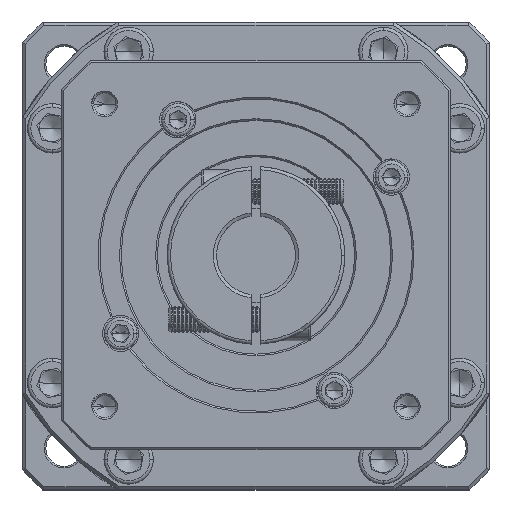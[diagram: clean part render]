
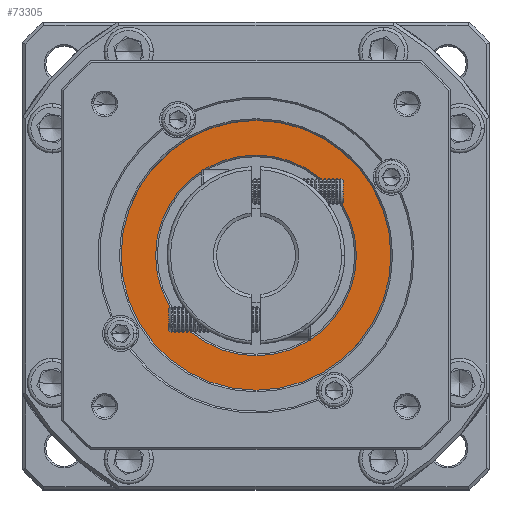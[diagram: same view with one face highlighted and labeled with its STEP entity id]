
A CAD part, top view. The second image highlights one B-rep face of the part: STEP entity #73305.
In plain terms, the highlighted planar face has unit normal (0, 0, 1).
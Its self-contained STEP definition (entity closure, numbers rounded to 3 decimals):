
#5859 = DIRECTION ( 'NONE',  ( 0., 0., 1. ) ) ;
#6194 = DIRECTION ( 'NONE',  ( 0., -1., 0. ) ) ;
#7858 = DIRECTION ( 'NONE',  ( 1., 0., 0. ) ) ;
#12958 = VERTEX_POINT ( 'NONE', #90287 ) ;
#20685 = CARTESIAN_POINT ( 'NONE',  ( -99.99, 88.035, -48.538 ) ) ;
#23509 = CIRCLE ( 'NONE', #136580, 41. ) ;
#25225 = DIRECTION ( 'NONE',  ( 0., 0., 1. ) ) ;
#26918 = ORIENTED_EDGE ( 'NONE', *, *, #122935, .T. ) ;
#27649 = DIRECTION ( 'NONE',  ( 1., 0., 0. ) ) ;
#28176 = FACE_BOUND ( 'NONE', #114670, .T. ) ;
#30694 = AXIS2_PLACEMENT_3D ( 'NONE', #106085, #5859, #27649 ) ;
#34313 = CARTESIAN_POINT ( 'NONE',  ( -99.99, 57.535, -48.538 ) ) ;
#42910 = EDGE_CURVE ( 'NONE', #122558, #139836, #76371, .T. ) ;
#43580 = ORIENTED_EDGE ( 'NONE', *, *, #42910, .T. ) ;
#45946 = FACE_OUTER_BOUND ( 'NONE', #83245, .T. ) ;
#47073 = ORIENTED_EDGE ( 'NONE', *, *, #109420, .T. ) ;
#48197 = CARTESIAN_POINT ( 'NONE',  ( -58.99, 88.035, -48.538 ) ) ;
#49855 = CARTESIAN_POINT ( 'NONE',  ( -99.99, 88.035, -48.538 ) ) ;
#59082 = ORIENTED_EDGE ( 'NONE', *, *, #90945, .T. ) ;
#62266 = AXIS2_PLACEMENT_3D ( 'NONE', #49855, #105559, #7858 ) ;
#67896 = AXIS2_PLACEMENT_3D ( 'NONE', #20685, #111392, #121795 ) ;
#73305 = ADVANCED_FACE ( 'NONE', ( #45946, #28176 ), #84340, .T. ) ;
#76371 = CIRCLE ( 'NONE', #30694, 41. ) ;
#83245 = EDGE_LOOP ( 'NONE', ( #47073, #43580 ) ) ;
#84340 = PLANE ( 'NONE',  #62266 ) ;
#85168 = CARTESIAN_POINT ( 'NONE',  ( -99.99, 88.035, -48.538 ) ) ;
#90287 = CARTESIAN_POINT ( 'NONE',  ( -99.99, 118.535, -48.538 ) ) ;
#90945 = EDGE_CURVE ( 'NONE', #12958, #135167, #144214, .T. ) ;
#91228 = CIRCLE ( 'NONE', #131186, 30.5 ) ;
#92825 = CARTESIAN_POINT ( 'NONE',  ( -99.99, 88.035, -48.538 ) ) ;
#97052 = DIRECTION ( 'NONE',  ( 0., 0., -1. ) ) ;
#105559 = DIRECTION ( 'NONE',  ( 0., 0., 1. ) ) ;
#106085 = CARTESIAN_POINT ( 'NONE',  ( -99.99, 88.035, -48.538 ) ) ;
#109420 = EDGE_CURVE ( 'NONE', #139836, #122558, #23509, .T. ) ;
#111392 = DIRECTION ( 'NONE',  ( 0., 0., -1. ) ) ;
#114670 = EDGE_LOOP ( 'NONE', ( #26918, #59082 ) ) ;
#117411 = DIRECTION ( 'NONE',  ( 1., 0., 0. ) ) ;
#121795 = DIRECTION ( 'NONE',  ( 0., -1., 0. ) ) ;
#121831 = CARTESIAN_POINT ( 'NONE',  ( -140.99, 88.035, -48.538 ) ) ;
#122558 = VERTEX_POINT ( 'NONE', #121831 ) ;
#122935 = EDGE_CURVE ( 'NONE', #135167, #12958, #91228, .T. ) ;
#131186 = AXIS2_PLACEMENT_3D ( 'NONE', #85168, #97052, #6194 ) ;
#135167 = VERTEX_POINT ( 'NONE', #34313 ) ;
#136580 = AXIS2_PLACEMENT_3D ( 'NONE', #92825, #25225, #117411 ) ;
#139836 = VERTEX_POINT ( 'NONE', #48197 ) ;
#144214 = CIRCLE ( 'NONE', #67896, 30.5 ) ;
